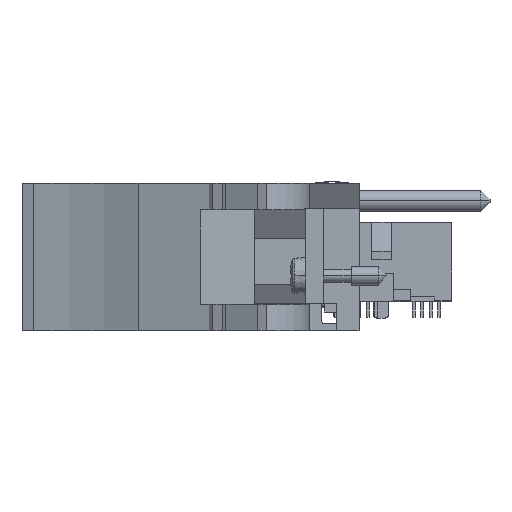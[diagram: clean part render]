
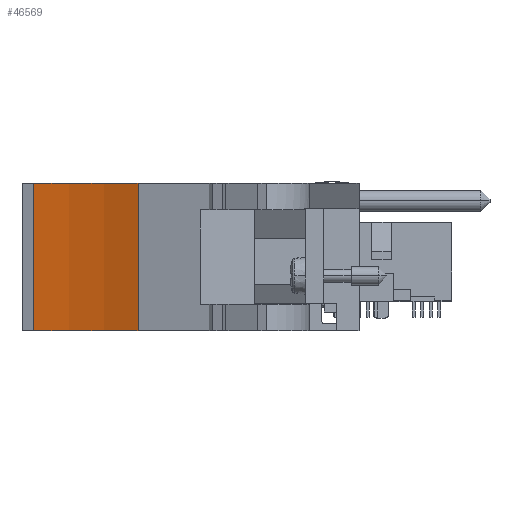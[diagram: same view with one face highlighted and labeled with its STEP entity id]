
A CAD part, front view. The second image highlights one B-rep face of the part: STEP entity #46569.
In plain terms, the highlighted cylindrical face has radius 51.46 mm (diameter 102.919 mm), a partial arc.
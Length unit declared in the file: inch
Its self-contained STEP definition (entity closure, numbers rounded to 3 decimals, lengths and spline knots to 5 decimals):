
#1426=CARTESIAN_POINT('',(-1.94433,-5.95093,-0.09201));
#1427=DIRECTION('',(0.,0.,1.));
#1428=DIRECTION('',(0.435,0.9,0.));
#1429=AXIS2_PLACEMENT_3D('',#1426,#1427,#1428);
#1749=DIRECTION('',(0.,0.,1.));
#1750=VECTOR('',#1749,0.788);
#1751=CARTESIAN_POINT('',(-1.06303,-4.12669,
-0.09201));
#1752=LINE('',#1751,#1750);
#1765=DIRECTION('',(0.,0.,1.));
#1766=VECTOR('',#1765,0.788);
#1767=CARTESIAN_POINT('',(-1.621,-3.95093,-0.09201));
#1768=LINE('',#1767,#1766);
#1941=CARTESIAN_POINT('',(-1.94433,-5.95093,0.69599));
#1942=DIRECTION('',(0.,0.,1.));
#1943=DIRECTION('',(0.435,0.9,0.));
#1944=AXIS2_PLACEMENT_3D('',#1941,#1942,#1943);
#34260=CARTESIAN_POINT('',(-1.06303,-4.12669,
-0.09201));
#34261=CARTESIAN_POINT('',(-1.621,-3.95093,-0.09201));
#34262=VERTEX_POINT('',#34260);
#34263=VERTEX_POINT('',#34261);
#34264=CARTESIAN_POINT('',(-1.06303,-4.12669,
0.69599));
#34265=CARTESIAN_POINT('',(-1.621,-3.95093,0.69599));
#34266=VERTEX_POINT('',#34264);
#34267=VERTEX_POINT('',#34265);
#46556=CARTESIAN_POINT('',(-1.94433,-5.95093,0.69599));
#46557=DIRECTION('',(0.,0.,1.));
#46558=DIRECTION('',(0.,1.,0.));
#46559=AXIS2_PLACEMENT_3D('',#46556,#46557,#46558);
#46560=CYLINDRICAL_SURFACE('',#46559,2.02597);
#46561=ORIENTED_EDGE('',*,*,#46062,.T.);
#46563=ORIENTED_EDGE('',*,*,#46562,.T.);
#46565=ORIENTED_EDGE('',*,*,#46564,.F.);
#46566=ORIENTED_EDGE('',*,*,#46540,.F.);
#46567=EDGE_LOOP('',(#46561,#46563,#46565,#46566));
#46568=FACE_OUTER_BOUND('',#46567,.F.);
#46569=ADVANCED_FACE('',(#46568),#46560,.F.);
#1430=CIRCLE('',#1429,2.02597);
#1945=CIRCLE('',#1944,2.02597);
#46062=EDGE_CURVE('',#34262,#34263,#1430,.T.);
#46540=EDGE_CURVE('',#34262,#34266,#1752,.T.);
#46562=EDGE_CURVE('',#34263,#34267,#1768,.T.);
#46564=EDGE_CURVE('',#34266,#34267,#1945,.T.);
